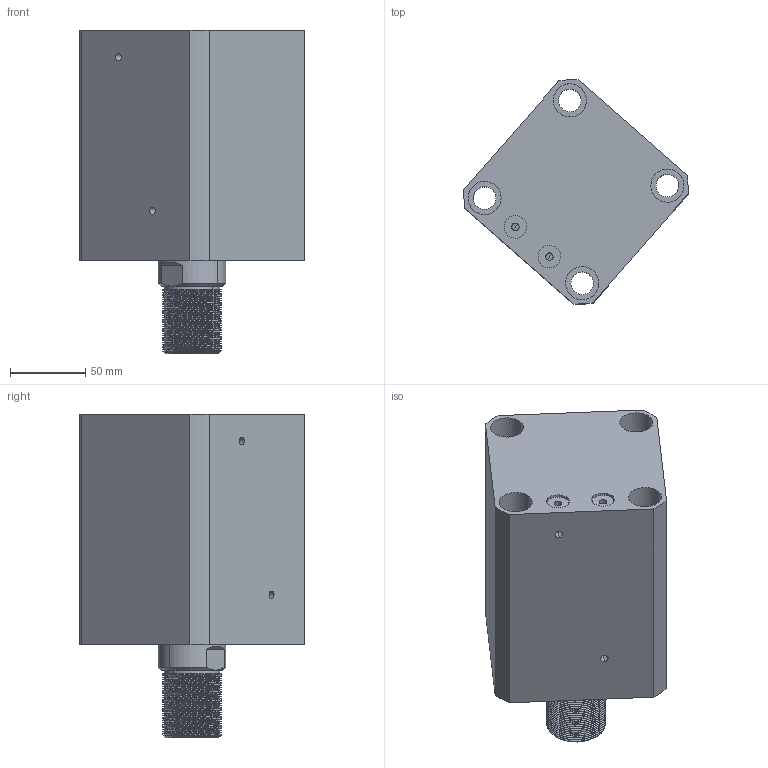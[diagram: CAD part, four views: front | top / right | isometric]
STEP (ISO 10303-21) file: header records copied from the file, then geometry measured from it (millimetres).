
FILE_DESCRIPTION (( 'STEP AP214' ), '1' );
FILE_NAME ('chtb-sdmb80x75w_asm.STEP', '2018-05-26T02:16:25', ( 'Windows' ), ( 'Microsoft' ), 'SwSTEP 2.0', 'SolidWorks 2015', '' );
FILE_SCHEMA (( 'AUTOMOTIVE_DESIGN' ));
Length unit declared in the file: millimetre
Products named in the file (4): CHTB-SDMB80X75NBT; CHTB-SD80X75WHSG; CHTB-SD80QG; chtb-sdmb80x75w_asm
Assembly tree (3 placements, depth 2):
  chtb-sdmb80x75w_asm
    CHTB-SD80QG
    CHTB-SD80X75WHSG
    CHTB-SDMB80X75NBT
Bounding box: 148.97 x 148.97 x 215 mm (x, y, z)
Volume: 1632130.3 mm3; surface area: 233740.6 mm2
Topology: 3 solids, 3 shells, 251 faces, 695 edges, 466 vertices
Faces by surface type: cylinder 163, plane 38, torus 18, bspline 16, cone 16
Entity records: 20297 total; most frequent: CARTESIAN_POINT 14321, ORIENTED_EDGE 1382, DIRECTION 1068, EDGE_CURVE 691, VERTEX_POINT 466, AXIS2_PLACEMENT_3D 433, EDGE_LOOP 289, ADVANCED_FACE 251
